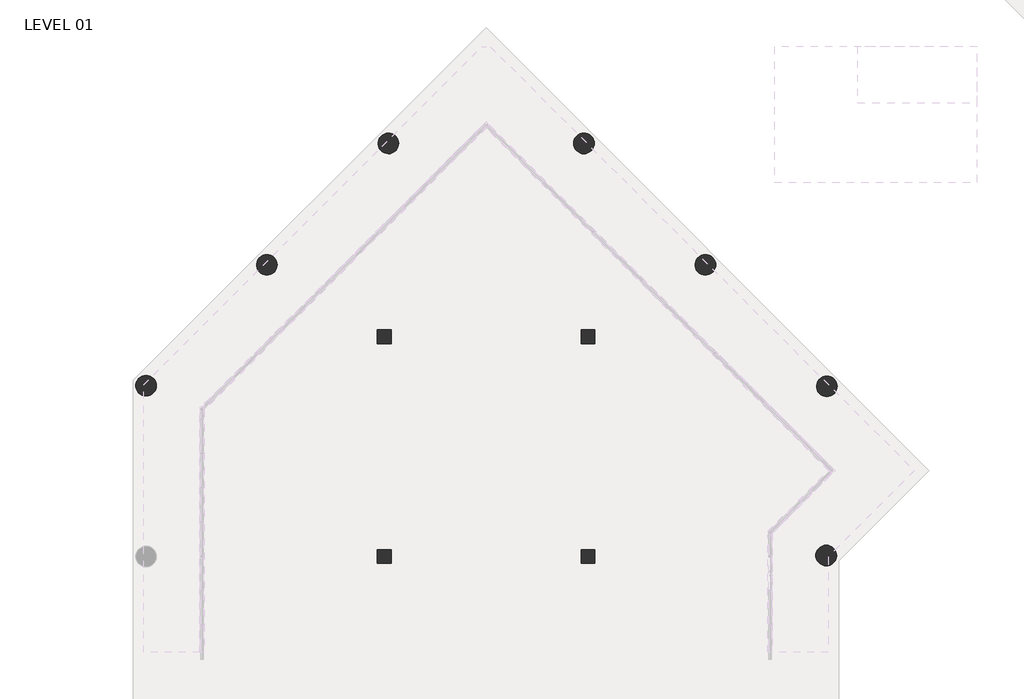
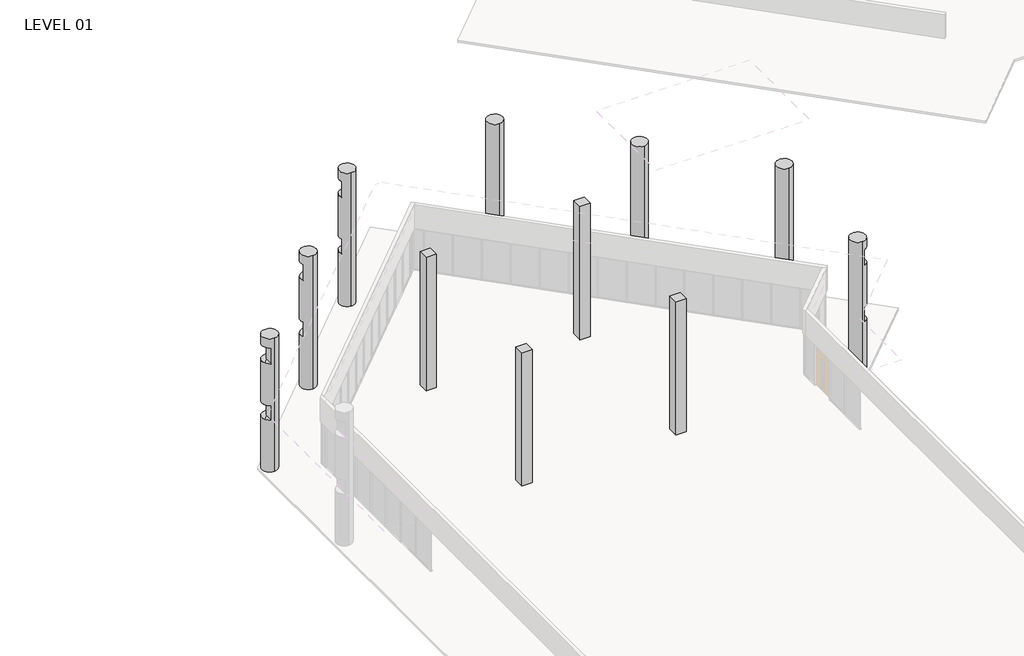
# One storey, part 18 of 24: 11 columns.
"""IFC4 building model written with IfcOpenShell, lengths in millimetres."""

from ifc_helpers import new_model, si_unit, frame, origin, place, context, project, spatial, circle_curve, transform, mapped, element, save
from ifc_brep_helpers import plane_surface, cylinder_surface, advanced_brep
from components import column_f8a5f9a6

model = new_model("IFC4")

# Units and contexts
model_context = context("Model", 3, world=origin())
ifc_project = project(units=[si_unit("LENGTHUNIT", "METRE", prefix="MILLI")], contexts=[model_context])

# Site, building, storey
site = spatial("IfcSite", under=ifc_project)
building = spatial("IfcBuilding", under=site)
storey = spatial("IfcBuildingStorey", under=building, Name="LEVEL 01", Elevation=0.0)

# Columns
placement = place(None, origin())
column_shape = column_f8a5f9a6(model_context)
element("IfcColumn", 1, ObjectType="Rectangular Column : 24\" x 24\"", at=placement, inside=storey, context=model_context, shape_type="MappedRepresentation", body=[
    mapped(column_shape, transform((-21715.9847164, 78701.5675885, 0.0), x_axis=(0.0, 1.0, 0.0), y_axis=(-1.0, 0.0, 0.0), z_axis=(0.0, 0.0, 1.0))),
])
element("IfcColumn", 2, ObjectType="Rectangular Column : 24\" x 24\"", at=placement, inside=storey, context=model_context, shape_type="MappedRepresentation", body=[
    mapped(column_shape, transform((-12679.9347164, 78701.5675885, 0.0), x_axis=(0.0, 1.0, 0.0), y_axis=(-1.0, 0.0, 0.0), z_axis=(0.0, 0.0, 1.0))),
])
element("IfcColumn", 3, ObjectType="Rectangular Column : 24\" x 24\"", at=placement, inside=storey, context=model_context, shape_type="MappedRepresentation", body=[
    mapped(column_shape, transform((-21715.9847164, 68947.9675885, 0.0), x_axis=(0.0, 1.0, 0.0), y_axis=(-1.0, 0.0, 0.0), z_axis=(0.0, 0.0, 1.0))),
])
element("IfcColumn", 4, ObjectType="Rectangular Column : 24\" x 24\"", at=placement, inside=storey, context=model_context, shape_type="MappedRepresentation", body=[
    mapped(column_shape, transform((-12679.9347164, 68947.9675885, 0.0), x_axis=(0.0, 1.0, 0.0), y_axis=(-1.0, 0.0, 0.0), z_axis=(0.0, 0.0, 1.0))),
])
element("IfcColumn", 5, ObjectType="Round Column : 36\" Diameter", at=placement, inside=storey, context=model_context, shape_type="AdvancedBrep", body=[
    advanced_brep(
    [(-2113.5347164, 68532.8516865, 0.0), (-2113.5347164, 69447.2516865, 0.0), (-1656.3347164, 68990.0516865, 0.0), (-2113.5347164, 68532.8516865, 8280.4), (-2113.5347164, 69447.2516865, 8280.4), (-1656.3347164, 68990.0516865, 3225.8), (-1961.1347164, 68558.9993926, 3225.8), (-1961.1347164, 68558.9993926, 4140.2), (-1656.3347164, 68990.0516865, 4140.2), (-1656.3347164, 68990.0516865, 6731.0), (-1961.1347164, 68558.9993926, 6731.0), (-1961.1347164, 68558.9993926, 7721.6), (-1656.3347164, 68990.0516865, 7721.6), (-1656.3347164, 68990.0516865, 8280.4), (-1700.9716429, 69187.088613, 7721.6), (-1700.9716429, 69187.088613, 6731.0), (-1700.9716429, 69187.088613, 4140.2), (-1700.9716429, 69187.088613, 3225.8), (-1961.1347164, 68926.9255396, 3225.8), (-1961.1347164, 68926.9255396, 4140.2), (-1961.1347164, 68926.9255396, 6731.0), (-1961.1347164, 68926.9255396, 7721.6)],
    [
        (0, 1, circle_curve(frame((-2113.5347164, 68990.0516865, 0.0), z_axis=(0.0, 0.0, -1.0), x_axis=(0.0, 1.0, 0.0)), 457.2)),
        (1, 2, circle_curve(frame((-2113.5347164, 68990.0516865, 0.0), z_axis=(0.0, 0.0, -1.0), x_axis=(0.0, 1.0, 0.0)), 457.2)),
        (2, 0, circle_curve(frame((-2113.5347164, 68990.0516865, 0.0), z_axis=(0.0, 0.0, -1.0), x_axis=(0.0, 1.0, 0.0)), 457.2)),
        (0, 3),
        (3, 4, circle_curve(frame((-2113.5347164, 68990.0516865, 8280.4), z_axis=(0.0, 0.0, -1.0), x_axis=(0.0, 1.0, 0.0)), 457.2)),
        (4, 1),
        (2, 5),
        (5, 6, circle_curve(frame((-2113.5347164, 68990.0516865, 3225.8), z_axis=(0.0, 0.0, -1.0), x_axis=(0.0, 1.0, 0.0)), 457.2)),
        (6, 7),
        (7, 8, circle_curve(frame((-2113.5347164, 68990.0516865, 4140.2), z_axis=(0.0, 0.0, 1.0), x_axis=(0.0, 1.0, 0.0)), 457.2)),
        (8, 9),
        (9, 10, circle_curve(frame((-2113.5347164, 68990.0516865, 6731.0), z_axis=(0.0, 0.0, -1.0), x_axis=(0.0, 1.0, 0.0)), 457.2)),
        (10, 11),
        (11, 12, circle_curve(frame((-2113.5347164, 68990.0516865, 7721.6), z_axis=(0.0, 0.0, 1.0), x_axis=(0.0, 1.0, 0.0)), 457.2)),
        (12, 13),
        (13, 3, circle_curve(frame((-2113.5347164, 68990.0516865, 8280.4), z_axis=(0.0, 0.0, -1.0), x_axis=(0.0, 1.0, 0.0)), 457.2)),
        (4, 13, circle_curve(frame((-2113.5347164, 68990.0516865, 8280.4), z_axis=(0.0, 0.0, -1.0), x_axis=(0.0, 1.0, 0.0)), 457.2)),
        (12, 14, circle_curve(frame((-2113.5347164, 68990.0516865, 7721.6), z_axis=(0.0, 0.0, 1.0), x_axis=(0.0, 1.0, 0.0)), 457.2)),
        (14, 15),
        (15, 9, circle_curve(frame((-2113.5347164, 68990.0516865, 6731.0), z_axis=(0.0, 0.0, -1.0), x_axis=(0.0, 1.0, 0.0)), 457.2)),
        (8, 16, circle_curve(frame((-2113.5347164, 68990.0516865, 4140.2), z_axis=(0.0, 0.0, 1.0), x_axis=(0.0, 1.0, 0.0)), 457.2)),
        (16, 17),
        (17, 5, circle_curve(frame((-2113.5347164, 68990.0516865, 3225.8), z_axis=(0.0, 0.0, -1.0), x_axis=(0.0, 1.0, 0.0)), 457.2)),
        (18, 19),
        (19, 7),
        (6, 18),
        (17, 18),
        (19, 16),
        (20, 21),
        (21, 11),
        (10, 20),
        (15, 20),
        (21, 14),
    ],
    [
        plane_surface(frame((-2113.5347164, 69447.2516865, 0.0), z_axis=(0.0, 0.0, -1.0), x_axis=(-1.0, 0.0, 0.0))),
        cylinder_surface(frame((-2113.5347164, 68990.0516865, 0.0), z_axis=(0.0, 0.0, 1.0), x_axis=(0.0, 1.0, 0.0)), 457.2),
        plane_surface(frame((-2113.5347164, 69447.2516865, 8280.4), z_axis=(0.0, 0.0, 1.0), x_axis=(1.0, 0.0, 0.0))),
        plane_surface(frame((-1961.1347164, 43225.4792122, 3225.8), z_axis=(1.0, 0.0, 0.0), x_axis=(0.0, -1.0, 0.0))),
        plane_surface(frame((-1656.3347164, 38383.7993926, 3225.8), z_axis=(0.0, 0.0, 1.0), x_axis=(-1.0, 0.0, 0.0))),
        plane_surface(frame((-1656.3347164, 68863.7993926, 4140.2), z_axis=(0.0, 0.0, -1.0), x_axis=(-1.0, 0.0, 0.0))),
        plane_surface(frame((-1871.8608633, 69016.1993926, 3225.8), z_axis=(0.7071067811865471, -0.707106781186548, 0.0), x_axis=(-0.707106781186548, -0.7071067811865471, 0.0))),
        plane_surface(frame((-1961.1347164, 43225.4792122, 6731.0), z_axis=(1.0, 0.0, 0.0), x_axis=(0.0, -1.0, 0.0))),
        plane_surface(frame((-1656.3347164, 38383.7993926, 6731.0), z_axis=(0.0, 0.0, 1.0), x_axis=(-1.0, 0.0, 0.0))),
        plane_surface(frame((-1656.3347164, 68863.7993926, 7721.6), z_axis=(0.0, 0.0, -1.0), x_axis=(-1.0, 0.0, 0.0))),
        plane_surface(frame((-1871.8608633, 69016.1993926, 6731.0), z_axis=(0.7071067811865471, -0.707106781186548, 0.0), x_axis=(-0.707106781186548, -0.7071067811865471, 0.0))),
    ],
    [
        (0, [[1, 2, 3]]),
        (1, [[-1, 4, 5, 6]]),
        (1, [[-3, 7, 8, 9, 10, 11, 12, 13, 14, 15, 16, -4]]),
        (1, [[-2, -6, 17, -15, 18, 19, 20, -11, 21, 22, 23, -7]]),
        (2, [[-5, -16, -17]]),
        (3, [[24, 25, -9, 26]]),
        (4, [[-8, -23, 27, -26]]),
        (5, [[-10, -25, 28, -21]]),
        (6, [[-24, -27, -22, -28]]),
        (7, [[29, 30, -13, 31]]),
        (8, [[-31, -12, -20, 32]]),
        (9, [[-30, 33, -18, -14]]),
        (10, [[-29, -32, -19, -33]]),
    ],
),
])
element("IfcColumn", 6, ObjectType="Round Column : 36\" Diameter", at=placement, inside=storey, context=model_context, shape_type="AdvancedBrep", body=[
    advanced_brep(
    [(-2083.7767654, 76038.9255396, 0.0), (-2083.7767654, 76953.3255396, 0.0), (-1626.5767654, 76496.1255396, 0.0), (-2083.7767654, 76038.9255396, 8280.4), (-2083.7767654, 76953.3255396, 8280.4), (-2083.7767654, 76953.3255396, 7721.6), (-2280.8136919, 76908.688613, 7721.6), (-2280.8136919, 76908.688613, 6731.0), (-2083.7767654, 76953.3255396, 6731.0), (-2083.7767654, 76953.3255396, 4140.2), (-2280.8136919, 76908.688613, 4140.2), (-2280.8136919, 76908.688613, 3225.8), (-2083.7767654, 76953.3255396, 3225.8), (-1626.5767654, 76496.1255396, 3225.8), (-1671.2136919, 76299.088613, 3225.8), (-1671.2136919, 76299.088613, 4140.2), (-1626.5767654, 76496.1255396, 4140.2), (-1626.5767654, 76496.1255396, 6731.0), (-1671.2136919, 76299.088613, 6731.0), (-1671.2136919, 76299.088613, 7721.6), (-1626.5767654, 76496.1255396, 7721.6), (-1626.5767654, 76496.1255396, 8280.4), (-1760.487545, 76819.4147599, 3225.8), (-1627.2850608, 76521.5649504, 3225.8), (-1760.487545, 76819.4147599, 6731.0), (-1760.487545, 76819.4147599, 7721.6), (-1760.487545, 76388.3624661, 3225.8), (-1760.487545, 76388.3624661, 4140.2), (-1627.2850608, 76521.5649504, 4140.2), (-1760.487545, 76819.4147599, 4140.2)],
    [
        (0, 1, circle_curve(frame((-2083.7767654, 76496.1255396, 0.0), z_axis=(0.0, 0.0, -1.0), x_axis=(0.0, 1.0, 0.0)), 457.2)),
        (1, 2, circle_curve(frame((-2083.7767654, 76496.1255396, 0.0), z_axis=(0.0, 0.0, -1.0), x_axis=(0.0, 1.0, 0.0)), 457.2)),
        (2, 0, circle_curve(frame((-2083.7767654, 76496.1255396, 0.0), z_axis=(0.0, 0.0, -1.0), x_axis=(0.0, 1.0, 0.0)), 457.2)),
        (0, 3),
        (3, 4, circle_curve(frame((-2083.7767654, 76496.1255396, 8280.4), z_axis=(0.0, 0.0, -1.0), x_axis=(0.0, 1.0, 0.0)), 457.2)),
        (4, 5),
        (5, 6, circle_curve(frame((-2083.7767654, 76496.1255396, 7721.6), z_axis=(0.0, 0.0, 1.0), x_axis=(0.0, 1.0, 0.0)), 457.2)),
        (6, 7),
        (7, 8, circle_curve(frame((-2083.7767654, 76496.1255396, 6731.0), z_axis=(0.0, 0.0, -1.0), x_axis=(0.0, 1.0, 0.0)), 457.2)),
        (8, 9),
        (9, 10, circle_curve(frame((-2083.7767654, 76496.1255396, 4140.2), z_axis=(0.0, 0.0, 1.0), x_axis=(0.0, 1.0, 0.0)), 457.2)),
        (10, 11),
        (11, 12, circle_curve(frame((-2083.7767654, 76496.1255396, 3225.8), z_axis=(0.0, 0.0, -1.0), x_axis=(0.0, 1.0, 0.0)), 457.2)),
        (12, 1),
        (2, 13),
        (13, 14, circle_curve(frame((-2083.7767654, 76496.1255396, 3225.8), z_axis=(0.0, 0.0, -1.0), x_axis=(0.0, 1.0, 0.0)), 457.2)),
        (14, 15),
        (15, 16, circle_curve(frame((-2083.7767654, 76496.1255396, 4140.2), z_axis=(0.0, 0.0, 1.0), x_axis=(0.0, 1.0, 0.0)), 457.2)),
        (16, 17),
        (17, 18, circle_curve(frame((-2083.7767654, 76496.1255396, 6731.0), z_axis=(0.0, 0.0, -1.0), x_axis=(0.0, 1.0, 0.0)), 457.2)),
        (18, 19),
        (19, 20, circle_curve(frame((-2083.7767654, 76496.1255396, 7721.6), z_axis=(0.0, 0.0, 1.0), x_axis=(0.0, 1.0, 0.0)), 457.2)),
        (20, 21),
        (21, 3, circle_curve(frame((-2083.7767654, 76496.1255396, 8280.4), z_axis=(0.0, 0.0, -1.0), x_axis=(0.0, 1.0, 0.0)), 457.2)),
        (12, 22, circle_curve(frame((-2083.7767654, 76496.1255396, 3225.8), z_axis=(0.0, 0.0, -1.0), x_axis=(0.0, 1.0, 0.0)), 457.2)),
        (22, 23, circle_curve(frame((-2083.7767654, 76496.1255396, 3225.8), z_axis=(0.0, 0.0, -1.0), x_axis=(0.0, 1.0, 0.0)), 457.2)),
        (23, 13, circle_curve(frame((-2083.7767654, 76496.1255396, 3225.8), z_axis=(0.0, 0.0, -1.0), x_axis=(0.0, 1.0, 0.0)), 457.2)),
        (21, 4, circle_curve(frame((-2083.7767654, 76496.1255396, 8280.4), z_axis=(0.0, 0.0, 1.0), x_axis=(0.0, 1.0, 0.0)), 457.2)),
        (18, 7),
        (6, 19),
        (17, 24, circle_curve(frame((-2083.7767654, 76496.1255396, 6731.0), z_axis=(0.0, 0.0, 1.0), x_axis=(0.0, 1.0, 0.0)), 457.2)),
        (24, 8, circle_curve(frame((-2083.7767654, 76496.1255396, 6731.0), z_axis=(0.0, 0.0, 1.0), x_axis=(0.0, 1.0, 0.0)), 457.2)),
        (5, 25, circle_curve(frame((-2083.7767654, 76496.1255396, 7721.6), z_axis=(0.0, 0.0, -1.0), x_axis=(0.0, 1.0, 0.0)), 457.2)),
        (25, 20, circle_curve(frame((-2083.7767654, 76496.1255396, 7721.6), z_axis=(0.0, 0.0, -1.0), x_axis=(0.0, 1.0, 0.0)), 457.2)),
        (23, 26),
        (26, 14),
        (15, 27),
        (27, 28),
        (28, 16, circle_curve(frame((-2083.7767654, 76496.1255396, 4140.2), z_axis=(0.0, 0.0, -1.0), x_axis=(0.0, 1.0, 0.0)), 457.2)),
        (26, 11),
        (10, 27),
        (27, 26),
        (9, 29, circle_curve(frame((-2083.7767654, 76496.1255396, 4140.2), z_axis=(0.0, 0.0, -1.0), x_axis=(0.0, 1.0, 0.0)), 457.2)),
        (29, 28, circle_curve(frame((-2083.7767654, 76496.1255396, 4140.2), z_axis=(0.0, 0.0, -1.0), x_axis=(0.0, 1.0, 0.0)), 457.2)),
    ],
    [
        plane_surface(frame((-2083.7767654, 76953.3255396, 0.0), z_axis=(0.0, 0.0, -1.0), x_axis=(-1.0, 0.0, 0.0))),
        cylinder_surface(frame((-2083.7767654, 76496.1255396, 0.0), z_axis=(0.0, 0.0, 1.0), x_axis=(0.0, 1.0, 0.0)), 457.2),
        plane_surface(frame((-2083.7767654, 76953.3255396, 8280.4), z_axis=(0.0, 0.0, 1.0), x_axis=(1.0, 0.0, 0.0))),
        plane_surface(frame((3969.9201386, 70657.9547825, 6731.0), z_axis=(0.707106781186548, 0.7071067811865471, 0.0), x_axis=(0.7071067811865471, -0.707106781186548, 0.0))),
        plane_surface(frame((2193.1965529, 72865.730662, 6731.0), z_axis=(0.0, 0.0, 1.0000000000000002), x_axis=(-0.7071067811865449, -0.7071067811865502, 0.0))),
        plane_surface(frame((-17090.1966429, 92149.1238578, 7721.6), z_axis=(0.0, 0.0, -1.0000000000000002), x_axis=(-0.7071067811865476, -0.7071067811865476, 0.0))),
        plane_surface(frame((2193.1965529, 72865.730662, 3225.8), z_axis=(0.0, 0.0, 1.0000000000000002), x_axis=(-0.7071067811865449, -0.7071067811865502, 0.0))),
        plane_surface(frame((-1544.9613981, 76603.888613, 4140.2), z_axis=(0.0, 0.0, -1.0), x_axis=(-0.7071067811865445, -0.7071067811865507, 0.0))),
        plane_surface(frame((2085.4334795, 72542.4414416, 3225.8), z_axis=(0.7071067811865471, 0.707106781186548, 0.0), x_axis=(0.707106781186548, -0.7071067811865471, 0.0))),
        plane_surface(frame((-1544.9613981, 76603.888613, 3225.8), z_axis=(0.0, 0.0, 1.0000000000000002), x_axis=(-0.7071067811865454, -0.7071067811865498, 0.0))),
        plane_surface(frame((-17090.1966429, 92149.1238578, 4140.2), z_axis=(0.0, 0.0, -1.0000000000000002), x_axis=(-0.7071067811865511, -0.707106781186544, 0.0))),
        plane_surface(frame((2085.4334795, 72542.4414416, 3225.8), z_axis=(0.7071067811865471, 0.7071067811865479, 0.0), x_axis=(0.7071067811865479, -0.7071067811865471, 0.0))),
    ],
    [
        (0, [[1, 2, 3]]),
        (1, [[-1, 4, 5, 6, 7, 8, 9, 10, 11, 12, 13, 14]]),
        (1, [[-3, 15, 16, 17, 18, 19, 20, 21, 22, 23, 24, -4]]),
        (1, [[-2, -14, 25, 26, 27, -15]]),
        (2, [[-5, -24, 28]]),
        (3, [[29, -8, 30, -21]]),
        (4, [[-9, -29, -20, 31, 32]]),
        (5, [[-7, 33, 34, -22, -30]]),
        (1, [[-28, -23, -34, -33, -6]]),
        (6, [[-16, -27, 35, 36]]),
        (7, [[-18, 37, 38, 39]]),
        (8, [[40, -12, 41, 42]]),
        (9, [[-40, -35, -26, -25, -13]]),
        (10, [[-41, -11, 43, 44, -38]]),
        (1, [[-31, -19, -39, -44, -43, -10, -32]]),
        (11, [[-36, -42, -37, -17]]),
    ],
),
])
element("IfcColumn", 7, ObjectType="Round Column : 36\" Diameter", at=placement, inside=storey, context=model_context, shape_type="AdvancedBrep", body=[
    advanced_brep(
    [(-7471.7517654, 81426.9005396, 0.0), (-7471.7517654, 82341.3005396, 0.0), (-7014.5517654, 81884.1005396, 0.0), (-7471.7517654, 81426.9005396, 8280.4), (-7471.7517654, 82341.3005396, 8280.4), (-7471.7517654, 82341.3005396, 7721.6), (-7668.7886919, 82296.663613, 7721.6), (-7668.7886919, 82296.663613, 6731.0), (-7471.7517654, 82341.3005396, 6731.0), (-7471.7517654, 82341.3005396, 4140.2), (-7668.7886919, 82296.663613, 4140.2), (-7668.7886919, 82296.663613, 3225.8), (-7471.7517654, 82341.3005396, 3225.8), (-7014.5517654, 81884.1005396, 3225.8), (-7059.1886919, 81687.063613, 3225.8), (-7059.1886919, 81687.063613, 4140.2), (-7014.5517654, 81884.1005396, 4140.2), (-7014.5517654, 81884.1005396, 6731.0), (-7059.1886919, 81687.063613, 6731.0), (-7059.1886919, 81687.063613, 7721.6), (-7014.5517654, 81884.1005396, 7721.6), (-7014.5517654, 81884.1005396, 8280.4), (-7148.462545, 82207.3897599, 3225.8), (-7148.462545, 82207.3897599, 6731.0), (-7148.462545, 82207.3897599, 7721.6), (-7148.462545, 82207.3897599, 4140.2)],
    [
        (0, 1, circle_curve(frame((-7471.7517654, 81884.1005396, 0.0), z_axis=(0.0, 0.0, -1.0), x_axis=(0.0, 1.0, 0.0)), 457.2)),
        (1, 2, circle_curve(frame((-7471.7517654, 81884.1005396, 0.0), z_axis=(0.0, 0.0, -1.0), x_axis=(0.0, 1.0, 0.0)), 457.2)),
        (2, 0, circle_curve(frame((-7471.7517654, 81884.1005396, 0.0), z_axis=(0.0, 0.0, -1.0), x_axis=(0.0, 1.0, 0.0)), 457.2)),
        (0, 3),
        (3, 4, circle_curve(frame((-7471.7517654, 81884.1005396, 8280.4), z_axis=(0.0, 0.0, -1.0), x_axis=(0.0, 1.0, 0.0)), 457.2)),
        (4, 5),
        (5, 6, circle_curve(frame((-7471.7517654, 81884.1005396, 7721.6), z_axis=(0.0, 0.0, 1.0), x_axis=(0.0, 1.0, 0.0)), 457.2)),
        (6, 7),
        (7, 8, circle_curve(frame((-7471.7517654, 81884.1005396, 6731.0), z_axis=(0.0, 0.0, -1.0), x_axis=(0.0, 1.0, 0.0)), 457.2)),
        (8, 9),
        (9, 10, circle_curve(frame((-7471.7517654, 81884.1005396, 4140.2), z_axis=(0.0, 0.0, 1.0), x_axis=(0.0, 1.0, 0.0)), 457.2)),
        (10, 11),
        (11, 12, circle_curve(frame((-7471.7517654, 81884.1005396, 3225.8), z_axis=(0.0, 0.0, -1.0), x_axis=(0.0, 1.0, 0.0)), 457.2)),
        (12, 1),
        (2, 13),
        (13, 14, circle_curve(frame((-7471.7517654, 81884.1005396, 3225.8), z_axis=(0.0, 0.0, -1.0), x_axis=(0.0, 1.0, 0.0)), 457.2)),
        (14, 15),
        (15, 16, circle_curve(frame((-7471.7517654, 81884.1005396, 4140.2), z_axis=(0.0, 0.0, 1.0), x_axis=(0.0, 1.0, 0.0)), 457.2)),
        (16, 17),
        (17, 18, circle_curve(frame((-7471.7517654, 81884.1005396, 6731.0), z_axis=(0.0, 0.0, -1.0), x_axis=(0.0, 1.0, 0.0)), 457.2)),
        (18, 19),
        (19, 20, circle_curve(frame((-7471.7517654, 81884.1005396, 7721.6), z_axis=(0.0, 0.0, 1.0), x_axis=(0.0, 1.0, 0.0)), 457.2)),
        (20, 21),
        (21, 3, circle_curve(frame((-7471.7517654, 81884.1005396, 8280.4), z_axis=(0.0, 0.0, -1.0), x_axis=(0.0, 1.0, 0.0)), 457.2)),
        (12, 22, circle_curve(frame((-7471.7517654, 81884.1005396, 3225.8), z_axis=(0.0, 0.0, -1.0), x_axis=(0.0, 1.0, 0.0)), 457.2)),
        (22, 13, circle_curve(frame((-7471.7517654, 81884.1005396, 3225.8), z_axis=(0.0, 0.0, -1.0), x_axis=(0.0, 1.0, 0.0)), 457.2)),
        (21, 4, circle_curve(frame((-7471.7517654, 81884.1005396, 8280.4), z_axis=(0.0, 0.0, 1.0), x_axis=(0.0, 1.0, 0.0)), 457.2)),
        (18, 7),
        (6, 19),
        (17, 23, circle_curve(frame((-7471.7517654, 81884.1005396, 6731.0), z_axis=(0.0, 0.0, 1.0), x_axis=(0.0, 1.0, 0.0)), 457.2)),
        (23, 8, circle_curve(frame((-7471.7517654, 81884.1005396, 6731.0), z_axis=(0.0, 0.0, 1.0), x_axis=(0.0, 1.0, 0.0)), 457.2)),
        (5, 24, circle_curve(frame((-7471.7517654, 81884.1005396, 7721.6), z_axis=(0.0, 0.0, -1.0), x_axis=(0.0, 1.0, 0.0)), 457.2)),
        (24, 20, circle_curve(frame((-7471.7517654, 81884.1005396, 7721.6), z_axis=(0.0, 0.0, -1.0), x_axis=(0.0, 1.0, 0.0)), 457.2)),
        (14, 11),
        (10, 15),
        (9, 25, circle_curve(frame((-7471.7517654, 81884.1005396, 4140.2), z_axis=(0.0, 0.0, -1.0), x_axis=(0.0, 1.0, 0.0)), 457.2)),
        (25, 16, circle_curve(frame((-7471.7517654, 81884.1005396, 4140.2), z_axis=(0.0, 0.0, -1.0), x_axis=(0.0, 1.0, 0.0)), 457.2)),
    ],
    [
        plane_surface(frame((-7471.7517654, 82341.3005396, 0.0), z_axis=(0.0, 0.0, -1.0), x_axis=(-1.0, 0.0, 0.0))),
        cylinder_surface(frame((-7471.7517654, 81884.1005396, 0.0), z_axis=(0.0, 0.0, 1.0), x_axis=(0.0, 1.0, 0.0)), 457.2),
        plane_surface(frame((-7471.7517654, 82341.3005396, 8280.4), z_axis=(0.0, 0.0, 1.0), x_axis=(1.0, 0.0, 0.0))),
        plane_surface(frame((3969.9201386, 70657.9547825, 6731.0), z_axis=(0.707106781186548, 0.7071067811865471, 0.0), x_axis=(0.7071067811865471, -0.707106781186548, 0.0))),
        plane_surface(frame((2193.1965529, 72865.730662, 6731.0), z_axis=(0.0, 0.0, 1.0000000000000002), x_axis=(-0.7071067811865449, -0.7071067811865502, 0.0))),
        plane_surface(frame((-17090.1966429, 92149.1238578, 7721.6), z_axis=(0.0, 0.0, -1.0000000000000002), x_axis=(-0.7071067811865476, -0.7071067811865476, 0.0))),
        plane_surface(frame((2085.4334795, 72542.4414416, 3225.8), z_axis=(0.7071067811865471, 0.707106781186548, 0.0), x_axis=(0.707106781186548, -0.7071067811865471, 0.0))),
        plane_surface(frame((-1544.9613981, 76603.888613, 3225.8), z_axis=(0.0, 0.0, 1.0000000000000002), x_axis=(-0.7071067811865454, -0.7071067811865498, 0.0))),
        plane_surface(frame((-17090.1966429, 92149.1238578, 4140.2), z_axis=(0.0, 0.0, -1.0000000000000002), x_axis=(-0.7071067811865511, -0.707106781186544, 0.0))),
    ],
    [
        (0, [[1, 2, 3]]),
        (1, [[-1, 4, 5, 6, 7, 8, 9, 10, 11, 12, 13, 14]]),
        (1, [[-3, 15, 16, 17, 18, 19, 20, 21, 22, 23, 24, -4]]),
        (1, [[-2, -14, 25, 26, -15]]),
        (2, [[-5, -24, 27]]),
        (3, [[28, -8, 29, -21]]),
        (4, [[-9, -28, -20, 30, 31]]),
        (5, [[-7, 32, 33, -22, -29]]),
        (1, [[-27, -23, -33, -32, -6]]),
        (6, [[34, -12, 35, -17]]),
        (7, [[-34, -16, -26, -25, -13]]),
        (8, [[-35, -11, 36, 37, -18]]),
        (1, [[-30, -19, -37, -36, -10, -31]]),
    ],
),
])
element("IfcColumn", 8, ObjectType="Round Column : 36\" Diameter", at=placement, inside=storey, context=model_context, shape_type="AdvancedBrep", body=[
    advanced_brep(
    [(-12859.7267654, 86814.8755396, 0.0), (-12859.7267654, 87729.2755396, 0.0), (-12402.5267654, 87272.0755396, 0.0), (-12859.7267654, 86814.8755396, 8280.4), (-12859.7267654, 87729.2755396, 8280.4), (-12859.7267654, 87729.2755396, 7721.6), (-13056.7636919, 87684.638613, 7721.6), (-13056.7636919, 87684.638613, 6731.0), (-12859.7267654, 87729.2755396, 6731.0), (-12859.7267654, 87729.2755396, 4140.2), (-13056.7636919, 87684.638613, 4140.2), (-13056.7636919, 87684.638613, 3225.8), (-12859.7267654, 87729.2755396, 3225.8), (-12402.5267654, 87272.0755396, 3225.8), (-12447.1636919, 87075.038613, 3225.8), (-12447.1636919, 87075.038613, 4140.2), (-12402.5267654, 87272.0755396, 4140.2), (-12402.5267654, 87272.0755396, 6731.0), (-12447.1636919, 87075.038613, 6731.0), (-12447.1636919, 87075.038613, 7721.6), (-12402.5267654, 87272.0755396, 7721.6), (-12402.5267654, 87272.0755396, 8280.4), (-12536.437545, 87595.3647599, 3225.8), (-12536.437545, 87595.3647599, 6731.0), (-12536.437545, 87595.3647599, 7721.6), (-12536.437545, 87595.3647599, 4140.2)],
    [
        (0, 1, circle_curve(frame((-12859.7267654, 87272.0755396, 0.0), z_axis=(0.0, 0.0, -1.0), x_axis=(0.0, 1.0, 0.0)), 457.2)),
        (1, 2, circle_curve(frame((-12859.7267654, 87272.0755396, 0.0), z_axis=(0.0, 0.0, -1.0), x_axis=(0.0, 1.0, 0.0)), 457.2)),
        (2, 0, circle_curve(frame((-12859.7267654, 87272.0755396, 0.0), z_axis=(0.0, 0.0, -1.0), x_axis=(0.0, 1.0, 0.0)), 457.2)),
        (0, 3),
        (3, 4, circle_curve(frame((-12859.7267654, 87272.0755396, 8280.4), z_axis=(0.0, 0.0, -1.0), x_axis=(0.0, 1.0, 0.0)), 457.2)),
        (4, 5),
        (5, 6, circle_curve(frame((-12859.7267654, 87272.0755396, 7721.6), z_axis=(0.0, 0.0, 1.0), x_axis=(0.0, 1.0, 0.0)), 457.2)),
        (6, 7),
        (7, 8, circle_curve(frame((-12859.7267654, 87272.0755396, 6731.0), z_axis=(0.0, 0.0, -1.0), x_axis=(0.0, 1.0, 0.0)), 457.2)),
        (8, 9),
        (9, 10, circle_curve(frame((-12859.7267654, 87272.0755396, 4140.2), z_axis=(0.0, 0.0, 1.0), x_axis=(0.0, 1.0, 0.0)), 457.2)),
        (10, 11),
        (11, 12, circle_curve(frame((-12859.7267654, 87272.0755396, 3225.8), z_axis=(0.0, 0.0, -1.0), x_axis=(0.0, 1.0, 0.0)), 457.2)),
        (12, 1),
        (2, 13),
        (13, 14, circle_curve(frame((-12859.7267654, 87272.0755396, 3225.8), z_axis=(0.0, 0.0, -1.0), x_axis=(0.0, 1.0, 0.0)), 457.2)),
        (14, 15),
        (15, 16, circle_curve(frame((-12859.7267654, 87272.0755396, 4140.2), z_axis=(0.0, 0.0, 1.0), x_axis=(0.0, 1.0, 0.0)), 457.2)),
        (16, 17),
        (17, 18, circle_curve(frame((-12859.7267654, 87272.0755396, 6731.0), z_axis=(0.0, 0.0, -1.0), x_axis=(0.0, 1.0, 0.0)), 457.2)),
        (18, 19),
        (19, 20, circle_curve(frame((-12859.7267654, 87272.0755396, 7721.6), z_axis=(0.0, 0.0, 1.0), x_axis=(0.0, 1.0, 0.0)), 457.2)),
        (20, 21),
        (21, 3, circle_curve(frame((-12859.7267654, 87272.0755396, 8280.4), z_axis=(0.0, 0.0, -1.0), x_axis=(0.0, 1.0, 0.0)), 457.2)),
        (12, 22, circle_curve(frame((-12859.7267654, 87272.0755396, 3225.8), z_axis=(0.0, 0.0, -1.0), x_axis=(0.0, 1.0, 0.0)), 457.2)),
        (22, 13, circle_curve(frame((-12859.7267654, 87272.0755396, 3225.8), z_axis=(0.0, 0.0, -1.0), x_axis=(0.0, 1.0, 0.0)), 457.2)),
        (21, 4, circle_curve(frame((-12859.7267654, 87272.0755396, 8280.4), z_axis=(0.0, 0.0, 1.0), x_axis=(0.0, 1.0, 0.0)), 457.2)),
        (18, 7),
        (6, 19),
        (17, 23, circle_curve(frame((-12859.7267654, 87272.0755396, 6731.0), z_axis=(0.0, 0.0, 1.0), x_axis=(0.0, 1.0, 0.0)), 457.2)),
        (23, 8, circle_curve(frame((-12859.7267654, 87272.0755396, 6731.0), z_axis=(0.0, 0.0, 1.0), x_axis=(0.0, 1.0, 0.0)), 457.2)),
        (5, 24, circle_curve(frame((-12859.7267654, 87272.0755396, 7721.6), z_axis=(0.0, 0.0, -1.0), x_axis=(0.0, 1.0, 0.0)), 457.2)),
        (24, 20, circle_curve(frame((-12859.7267654, 87272.0755396, 7721.6), z_axis=(0.0, 0.0, -1.0), x_axis=(0.0, 1.0, 0.0)), 457.2)),
        (14, 11),
        (10, 15),
        (9, 25, circle_curve(frame((-12859.7267654, 87272.0755396, 4140.2), z_axis=(0.0, 0.0, -1.0), x_axis=(0.0, 1.0, 0.0)), 457.2)),
        (25, 16, circle_curve(frame((-12859.7267654, 87272.0755396, 4140.2), z_axis=(0.0, 0.0, -1.0), x_axis=(0.0, 1.0, 0.0)), 457.2)),
    ],
    [
        plane_surface(frame((-12859.7267654, 87729.2755396, 0.0), z_axis=(0.0, 0.0, -1.0), x_axis=(-1.0, 0.0, 0.0))),
        cylinder_surface(frame((-12859.7267654, 87272.0755396, 0.0), z_axis=(0.0, 0.0, 1.0), x_axis=(0.0, 1.0, 0.0)), 457.2),
        plane_surface(frame((-12859.7267654, 87729.2755396, 8280.4), z_axis=(0.0, 0.0, 1.0), x_axis=(1.0, 0.0, 0.0))),
        plane_surface(frame((3969.9201386, 70657.9547825, 6731.0), z_axis=(0.707106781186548, 0.7071067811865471, 0.0), x_axis=(0.7071067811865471, -0.707106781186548, 0.0))),
        plane_surface(frame((2193.1965529, 72865.730662, 6731.0), z_axis=(0.0, 0.0, 1.0000000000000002), x_axis=(-0.7071067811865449, -0.7071067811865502, 0.0))),
        plane_surface(frame((-17090.1966429, 92149.1238578, 7721.6), z_axis=(0.0, 0.0, -1.0000000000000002), x_axis=(-0.7071067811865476, -0.7071067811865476, 0.0))),
        plane_surface(frame((2085.4334795, 72542.4414416, 3225.8), z_axis=(0.7071067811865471, 0.707106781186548, 0.0), x_axis=(0.707106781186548, -0.7071067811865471, 0.0))),
        plane_surface(frame((-1544.9613981, 76603.888613, 3225.8), z_axis=(0.0, 0.0, 1.0000000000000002), x_axis=(-0.7071067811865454, -0.7071067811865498, 0.0))),
        plane_surface(frame((-17090.1966429, 92149.1238578, 4140.2), z_axis=(0.0, 0.0, -1.0000000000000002), x_axis=(-0.7071067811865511, -0.707106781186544, 0.0))),
    ],
    [
        (0, [[1, 2, 3]]),
        (1, [[-1, 4, 5, 6, 7, 8, 9, 10, 11, 12, 13, 14]]),
        (1, [[-3, 15, 16, 17, 18, 19, 20, 21, 22, 23, 24, -4]]),
        (1, [[-2, -14, 25, 26, -15]]),
        (2, [[-5, -24, 27]]),
        (3, [[28, -8, 29, -21]]),
        (4, [[-9, -28, -20, 30, 31]]),
        (5, [[-7, 32, 33, -22, -29]]),
        (1, [[-27, -23, -33, -32, -6]]),
        (6, [[34, -12, 35, -17]]),
        (7, [[-34, -16, -26, -25, -13]]),
        (8, [[-35, -11, 36, 37, -18]]),
        (1, [[-30, -19, -37, -36, -10, -31]]),
    ],
),
])
element("IfcColumn", 9, ObjectType="Round Column : 36\" Diameter", at=placement, inside=storey, context=model_context, shape_type="AdvancedBrep", body=[
    advanced_brep(
    [(-21536.1926674, 86814.8755396, 0.0), (-21536.1926674, 87729.2755396, 0.0), (-21078.9926674, 87272.0755396, 0.0), (-21536.1926674, 86814.8755396, 8280.4), (-21536.1926674, 87729.2755396, 8280.4), (-21536.1926674, 87729.2755396, 7721.6), (-21859.4818878, 87595.3647599, 7721.6), (-21948.7557409, 87075.038613, 7721.6), (-21948.7557409, 87075.038613, 6731.0), (-21859.4818878, 87595.3647599, 6731.0), (-21536.1926674, 87729.2755396, 6731.0), (-21536.1926674, 87729.2755396, 4140.2), (-21859.4818878, 87595.3647599, 4140.2), (-21948.7557409, 87075.038613, 4140.2), (-21948.7557409, 87075.038613, 3225.8), (-21859.4818878, 87595.3647599, 3225.8), (-21536.1926674, 87729.2755396, 3225.8), (-21078.9926674, 87272.0755396, 8280.4), (-21339.1557409, 87684.638613, 3225.8), (-21339.1557409, 87684.638613, 4140.2), (-21339.1557409, 87684.638613, 6731.0), (-21339.1557409, 87684.638613, 7721.6)],
    [
        (0, 1, circle_curve(frame((-21536.1926674, 87272.0755396, 0.0), z_axis=(0.0, 0.0, -1.0), x_axis=(0.0, 1.0, 0.0)), 457.2)),
        (1, 2, circle_curve(frame((-21536.1926674, 87272.0755396, 0.0), z_axis=(0.0, 0.0, -1.0), x_axis=(0.0, 1.0, 0.0)), 457.2)),
        (2, 0, circle_curve(frame((-21536.1926674, 87272.0755396, 0.0), z_axis=(0.0, 0.0, -1.0), x_axis=(0.0, 1.0, 0.0)), 457.2)),
        (0, 3),
        (3, 4, circle_curve(frame((-21536.1926674, 87272.0755396, 8280.4), z_axis=(0.0, 0.0, -1.0), x_axis=(0.0, 1.0, 0.0)), 457.2)),
        (4, 5),
        (5, 6, circle_curve(frame((-21536.1926674, 87272.0755396, 7721.6), z_axis=(0.0, 0.0, 1.0), x_axis=(0.0, 1.0, 0.0)), 457.2)),
        (6, 7, circle_curve(frame((-21536.1926674, 87272.0755396, 7721.6), z_axis=(0.0, 0.0, 1.0), x_axis=(0.0, 1.0, 0.0)), 457.2)),
        (7, 8),
        (8, 9, circle_curve(frame((-21536.1926674, 87272.0755396, 6731.0), z_axis=(0.0, 0.0, -1.0), x_axis=(0.0, 1.0, 0.0)), 457.2)),
        (9, 10, circle_curve(frame((-21536.1926674, 87272.0755396, 6731.0), z_axis=(0.0, 0.0, -1.0), x_axis=(0.0, 1.0, 0.0)), 457.2)),
        (10, 11),
        (11, 12, circle_curve(frame((-21536.1926674, 87272.0755396, 4140.2), z_axis=(0.0, 0.0, 1.0), x_axis=(0.0, 1.0, 0.0)), 457.2)),
        (12, 13, circle_curve(frame((-21536.1926674, 87272.0755396, 4140.2), z_axis=(0.0, 0.0, 1.0), x_axis=(0.0, 1.0, 0.0)), 457.2)),
        (13, 14),
        (14, 15, circle_curve(frame((-21536.1926674, 87272.0755396, 3225.8), z_axis=(0.0, 0.0, -1.0), x_axis=(0.0, 1.0, 0.0)), 457.2)),
        (15, 16, circle_curve(frame((-21536.1926674, 87272.0755396, 3225.8), z_axis=(0.0, 0.0, -1.0), x_axis=(0.0, 1.0, 0.0)), 457.2)),
        (16, 1),
        (2, 17),
        (17, 3, circle_curve(frame((-21536.1926674, 87272.0755396, 8280.4), z_axis=(0.0, 0.0, -1.0), x_axis=(0.0, 1.0, 0.0)), 457.2)),
        (16, 18, circle_curve(frame((-21536.1926674, 87272.0755396, 3225.8), z_axis=(0.0, 0.0, -1.0), x_axis=(0.0, 1.0, 0.0)), 457.2)),
        (18, 19),
        (19, 11, circle_curve(frame((-21536.1926674, 87272.0755396, 4140.2), z_axis=(0.0, 0.0, 1.0), x_axis=(0.0, 1.0, 0.0)), 457.2)),
        (10, 20, circle_curve(frame((-21536.1926674, 87272.0755396, 6731.0), z_axis=(0.0, 0.0, -1.0), x_axis=(0.0, 1.0, 0.0)), 457.2)),
        (20, 21),
        (21, 5, circle_curve(frame((-21536.1926674, 87272.0755396, 7721.6), z_axis=(0.0, 0.0, 1.0), x_axis=(0.0, 1.0, 0.0)), 457.2)),
        (4, 17, circle_curve(frame((-21536.1926674, 87272.0755396, 8280.4), z_axis=(0.0, 0.0, -1.0), x_axis=(0.0, 1.0, 0.0)), 457.2)),
        (13, 19),
        (18, 14),
        (20, 8),
        (7, 21),
    ],
    [
        plane_surface(frame((-21536.1926674, 87729.2755396, 0.0), z_axis=(0.0, 0.0, -1.0), x_axis=(-1.0, 0.0, 0.0))),
        cylinder_surface(frame((-21536.1926674, 87272.0755396, 0.0), z_axis=(0.0, 0.0, 1.0), x_axis=(0.0, 1.0, 0.0)), 457.2),
        plane_surface(frame((-21536.1926674, 87729.2755396, 8280.4), z_axis=(0.0, 0.0, 1.0), x_axis=(1.0, 0.0, 0.0))),
        plane_surface(frame((-16910.5915205, 92113.2028334, 3225.8), z_axis=(-0.7071067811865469, 0.7071067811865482, 0.0), x_axis=(0.7071067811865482, 0.7071067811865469, 0.0))),
        plane_surface(frame((-17305.7227899, 92149.1238578, 3225.8), z_axis=(0.0, 0.0, 1.0000000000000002), x_axis=(0.707106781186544, -0.7071067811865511, 0.0))),
        plane_surface(frame((-32694.9477899, 76759.8988578, 4140.2), z_axis=(0.0, 0.0, -1.0), x_axis=(0.7071067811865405, -0.7071067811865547, 0.0))),
        plane_surface(frame((-16910.5915205, 92113.2028334, 6731.0), z_axis=(-0.707106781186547, 0.7071067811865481, 0.0), x_axis=(0.7071067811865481, 0.707106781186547, 0.0))),
        plane_surface(frame((-17305.7227899, 92149.1238578, 6731.0), z_axis=(0.0, 0.0, 1.0000000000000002), x_axis=(0.707106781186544, -0.7071067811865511, 0.0))),
        plane_surface(frame((-32694.9477899, 76759.8988578, 7721.6), z_axis=(0.0, 0.0, -1.0000000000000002), x_axis=(0.7071067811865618, -0.7071067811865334, 0.0))),
    ],
    [
        (0, [[1, 2, 3]]),
        (1, [[-1, 4, 5, 6, 7, 8, 9, 10, 11, 12, 13, 14, 15, 16, 17, 18]]),
        (1, [[-3, 19, 20, -4]]),
        (1, [[-2, -18, 21, 22, 23, -12, 24, 25, 26, -6, 27, -19]]),
        (2, [[-5, -20, -27]]),
        (3, [[-15, 28, -22, 29]]),
        (4, [[-17, -16, -29, -21]]),
        (5, [[-13, -23, -28, -14]]),
        (6, [[30, -9, 31, -25]]),
        (7, [[-30, -24, -11, -10]]),
        (8, [[-31, -8, -7, -26]]),
    ],
),
])
element("IfcColumn", 10, ObjectType="Round Column : 36\" Diameter", at=placement, inside=storey, context=model_context, shape_type="AdvancedBrep", body=[
    advanced_brep(
    [(-26924.1676674, 81426.9005396, 0.0), (-26924.1676674, 82341.3005396, 0.0), (-26466.9676674, 81884.1005396, 0.0), (-26924.1676674, 81426.9005396, 8280.4), (-26924.1676674, 82341.3005396, 8280.4), (-26924.1676674, 82341.3005396, 7721.6), (-27247.4568878, 82207.3897599, 7721.6), (-27336.7307409, 81687.063613, 7721.6), (-27336.7307409, 81687.063613, 6731.0), (-27247.4568878, 82207.3897599, 6731.0), (-26924.1676674, 82341.3005396, 6731.0), (-26924.1676674, 82341.3005396, 4140.2), (-27247.4568878, 82207.3897599, 4140.2), (-27336.7307409, 81687.063613, 4140.2), (-27336.7307409, 81687.063613, 3225.8), (-27247.4568878, 82207.3897599, 3225.8), (-26924.1676674, 82341.3005396, 3225.8), (-26466.9676674, 81884.1005396, 8280.4), (-26727.1307409, 82296.663613, 3225.8), (-26727.1307409, 82296.663613, 4140.2), (-26727.1307409, 82296.663613, 6731.0), (-26727.1307409, 82296.663613, 7721.6)],
    [
        (0, 1, circle_curve(frame((-26924.1676674, 81884.1005396, 0.0), z_axis=(0.0, 0.0, -1.0), x_axis=(0.0, 1.0, 0.0)), 457.2)),
        (1, 2, circle_curve(frame((-26924.1676674, 81884.1005396, 0.0), z_axis=(0.0, 0.0, -1.0), x_axis=(0.0, 1.0, 0.0)), 457.2)),
        (2, 0, circle_curve(frame((-26924.1676674, 81884.1005396, 0.0), z_axis=(0.0, 0.0, -1.0), x_axis=(0.0, 1.0, 0.0)), 457.2)),
        (0, 3),
        (3, 4, circle_curve(frame((-26924.1676674, 81884.1005396, 8280.4), z_axis=(0.0, 0.0, -1.0), x_axis=(0.0, 1.0, 0.0)), 457.2)),
        (4, 5),
        (5, 6, circle_curve(frame((-26924.1676674, 81884.1005396, 7721.6), z_axis=(0.0, 0.0, 1.0), x_axis=(0.0, 1.0, 0.0)), 457.2)),
        (6, 7, circle_curve(frame((-26924.1676674, 81884.1005396, 7721.6), z_axis=(0.0, 0.0, 1.0), x_axis=(0.0, 1.0, 0.0)), 457.2)),
        (7, 8),
        (8, 9, circle_curve(frame((-26924.1676674, 81884.1005396, 6731.0), z_axis=(0.0, 0.0, -1.0), x_axis=(0.0, 1.0, 0.0)), 457.2)),
        (9, 10, circle_curve(frame((-26924.1676674, 81884.1005396, 6731.0), z_axis=(0.0, 0.0, -1.0), x_axis=(0.0, 1.0, 0.0)), 457.2)),
        (10, 11),
        (11, 12, circle_curve(frame((-26924.1676674, 81884.1005396, 4140.2), z_axis=(0.0, 0.0, 1.0), x_axis=(0.0, 1.0, 0.0)), 457.2)),
        (12, 13, circle_curve(frame((-26924.1676674, 81884.1005396, 4140.2), z_axis=(0.0, 0.0, 1.0), x_axis=(0.0, 1.0, 0.0)), 457.2)),
        (13, 14),
        (14, 15, circle_curve(frame((-26924.1676674, 81884.1005396, 3225.8), z_axis=(0.0, 0.0, -1.0), x_axis=(0.0, 1.0, 0.0)), 457.2)),
        (15, 16, circle_curve(frame((-26924.1676674, 81884.1005396, 3225.8), z_axis=(0.0, 0.0, -1.0), x_axis=(0.0, 1.0, 0.0)), 457.2)),
        (16, 1),
        (2, 17),
        (17, 3, circle_curve(frame((-26924.1676674, 81884.1005396, 8280.4), z_axis=(0.0, 0.0, -1.0), x_axis=(0.0, 1.0, 0.0)), 457.2)),
        (16, 18, circle_curve(frame((-26924.1676674, 81884.1005396, 3225.8), z_axis=(0.0, 0.0, -1.0), x_axis=(0.0, 1.0, 0.0)), 457.2)),
        (18, 19),
        (19, 11, circle_curve(frame((-26924.1676674, 81884.1005396, 4140.2), z_axis=(0.0, 0.0, 1.0), x_axis=(0.0, 1.0, 0.0)), 457.2)),
        (10, 20, circle_curve(frame((-26924.1676674, 81884.1005396, 6731.0), z_axis=(0.0, 0.0, -1.0), x_axis=(0.0, 1.0, 0.0)), 457.2)),
        (20, 21),
        (21, 5, circle_curve(frame((-26924.1676674, 81884.1005396, 7721.6), z_axis=(0.0, 0.0, 1.0), x_axis=(0.0, 1.0, 0.0)), 457.2)),
        (4, 17, circle_curve(frame((-26924.1676674, 81884.1005396, 8280.4), z_axis=(0.0, 0.0, -1.0), x_axis=(0.0, 1.0, 0.0)), 457.2)),
        (13, 19),
        (18, 14),
        (20, 8),
        (7, 21),
    ],
    [
        plane_surface(frame((-26924.1676674, 82341.3005396, 0.0), z_axis=(0.0, 0.0, -1.0), x_axis=(-1.0, 0.0, 0.0))),
        cylinder_surface(frame((-26924.1676674, 81884.1005396, 0.0), z_axis=(0.0, 0.0, 1.0), x_axis=(0.0, 1.0, 0.0)), 457.2),
        plane_surface(frame((-26924.1676674, 82341.3005396, 8280.4), z_axis=(0.0, 0.0, 1.0), x_axis=(1.0, 0.0, 0.0))),
        plane_surface(frame((-16910.5915205, 92113.2028334, 3225.8), z_axis=(-0.7071067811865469, 0.7071067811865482, 0.0), x_axis=(0.7071067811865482, 0.7071067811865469, 0.0))),
        plane_surface(frame((-17305.7227899, 92149.1238578, 3225.8), z_axis=(0.0, 0.0, 1.0000000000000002), x_axis=(0.707106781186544, -0.7071067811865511, 0.0))),
        plane_surface(frame((-32694.9477899, 76759.8988578, 4140.2), z_axis=(0.0, 0.0, -1.0), x_axis=(0.7071067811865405, -0.7071067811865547, 0.0))),
        plane_surface(frame((-16910.5915205, 92113.2028334, 6731.0), z_axis=(-0.707106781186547, 0.7071067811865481, 0.0), x_axis=(0.7071067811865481, 0.707106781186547, 0.0))),
        plane_surface(frame((-17305.7227899, 92149.1238578, 6731.0), z_axis=(0.0, 0.0, 1.0000000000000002), x_axis=(0.707106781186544, -0.7071067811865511, 0.0))),
        plane_surface(frame((-32694.9477899, 76759.8988578, 7721.6), z_axis=(0.0, 0.0, -1.0000000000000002), x_axis=(0.7071067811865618, -0.7071067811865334, 0.0))),
    ],
    [
        (0, [[1, 2, 3]]),
        (1, [[-1, 4, 5, 6, 7, 8, 9, 10, 11, 12, 13, 14, 15, 16, 17, 18]]),
        (1, [[-3, 19, 20, -4]]),
        (1, [[-2, -18, 21, 22, 23, -12, 24, 25, 26, -6, 27, -19]]),
        (2, [[-5, -20, -27]]),
        (3, [[-15, 28, -22, 29]]),
        (4, [[-17, -16, -29, -21]]),
        (5, [[-13, -23, -28, -14]]),
        (6, [[30, -9, 31, -25]]),
        (7, [[-30, -24, -11, -10]]),
        (8, [[-31, -8, -7, -26]]),
    ],
),
])
element("IfcColumn", 11, ObjectType="Round Column : 36\" Diameter", at=placement, inside=storey, context=model_context, shape_type="AdvancedBrep", body=[
    advanced_brep(
    [(-32282.3847164, 76068.6834906, 0.0), (-32282.3847164, 76983.0834906, 0.0), (-31825.1847164, 76525.8834906, 0.0), (-32282.3847164, 76068.6834906, 8280.4), (-32282.3847164, 76983.0834906, 8280.4), (-32282.3847164, 76983.0834906, 7721.6), (-32605.6739368, 76849.1727109, 7721.6), (-32739.5847164, 76525.8834906, 7721.6), (-32694.9477899, 76328.846564, 7721.6), (-32434.7847164, 76094.8311968, 7721.6), (-32434.7847164, 76094.8311968, 6731.0), (-32694.9477899, 76328.846564, 6731.0), (-32739.5847164, 76525.8834906, 6731.0), (-32605.6739368, 76849.1727109, 6731.0), (-32282.3847164, 76983.0834906, 6731.0), (-32282.3847164, 76983.0834906, 4140.2), (-32605.6739368, 76849.1727109, 4140.2), (-32739.5847164, 76525.8834906, 4140.2), (-32694.9477899, 76328.846564, 4140.2), (-32434.7847164, 76094.8311968, 4140.2), (-32434.7847164, 76094.8311968, 3225.8), (-32694.9477899, 76328.846564, 3225.8), (-32739.5847164, 76525.8834906, 3225.8), (-32605.6739368, 76849.1727109, 3225.8), (-32282.3847164, 76983.0834906, 3225.8), (-31825.1847164, 76525.8834906, 8280.4), (-32085.3477899, 76938.446564, 3225.8), (-32085.3477899, 76938.446564, 4140.2), (-32085.3477899, 76938.446564, 6731.0), (-32085.3477899, 76938.446564, 7721.6), (-32434.7847164, 76589.0096375, 3225.8), (-32434.7847164, 76589.0096375, 4140.2), (-32434.7847164, 76589.0096375, 6731.0), (-32434.7847164, 76589.0096375, 7721.6)],
    [
        (0, 1, circle_curve(frame((-32282.3847164, 76525.8834906, 0.0), z_axis=(0.0, 0.0, -1.0), x_axis=(0.0, 1.0, 0.0)), 457.2)),
        (1, 2, circle_curve(frame((-32282.3847164, 76525.8834906, 0.0), z_axis=(0.0, 0.0, -1.0), x_axis=(0.0, 1.0, 0.0)), 457.2)),
        (2, 0, circle_curve(frame((-32282.3847164, 76525.8834906, 0.0), z_axis=(0.0, 0.0, -1.0), x_axis=(0.0, 1.0, 0.0)), 457.2)),
        (0, 3),
        (3, 4, circle_curve(frame((-32282.3847164, 76525.8834906, 8280.4), z_axis=(0.0, 0.0, -1.0), x_axis=(0.0, 1.0, 0.0)), 457.2)),
        (4, 5),
        (5, 6, circle_curve(frame((-32282.3847164, 76525.8834906, 7721.6), z_axis=(0.0, 0.0, 1.0), x_axis=(0.0, 1.0, 0.0)), 457.2)),
        (6, 7, circle_curve(frame((-32282.3847164, 76525.8834906, 7721.6), z_axis=(0.0, 0.0, 1.0), x_axis=(0.0, 1.0, 0.0)), 457.2)),
        (7, 8, circle_curve(frame((-32282.3847164, 76525.8834906, 7721.6), z_axis=(0.0, 0.0, 1.0), x_axis=(0.0, 1.0, 0.0)), 457.2)),
        (8, 9, circle_curve(frame((-32282.3847164, 76525.8834906, 7721.6), z_axis=(0.0, 0.0, 1.0), x_axis=(0.0, 1.0, 0.0)), 457.2)),
        (9, 10),
        (10, 11, circle_curve(frame((-32282.3847164, 76525.8834906, 6731.0), z_axis=(0.0, 0.0, -1.0), x_axis=(0.0, 1.0, 0.0)), 457.2)),
        (11, 12, circle_curve(frame((-32282.3847164, 76525.8834906, 6731.0), z_axis=(0.0, 0.0, -1.0), x_axis=(0.0, 1.0, 0.0)), 457.2)),
        (12, 13, circle_curve(frame((-32282.3847164, 76525.8834906, 6731.0), z_axis=(0.0, 0.0, -1.0), x_axis=(0.0, 1.0, 0.0)), 457.2)),
        (13, 14, circle_curve(frame((-32282.3847164, 76525.8834906, 6731.0), z_axis=(0.0, 0.0, -1.0), x_axis=(0.0, 1.0, 0.0)), 457.2)),
        (14, 15),
        (15, 16, circle_curve(frame((-32282.3847164, 76525.8834906, 4140.2), z_axis=(0.0, 0.0, 1.0), x_axis=(0.0, 1.0, 0.0)), 457.2)),
        (16, 17, circle_curve(frame((-32282.3847164, 76525.8834906, 4140.2), z_axis=(0.0, 0.0, 1.0), x_axis=(0.0, 1.0, 0.0)), 457.2)),
        (17, 18, circle_curve(frame((-32282.3847164, 76525.8834906, 4140.2), z_axis=(0.0, 0.0, 1.0), x_axis=(0.0, 1.0, 0.0)), 457.2)),
        (18, 19, circle_curve(frame((-32282.3847164, 76525.8834906, 4140.2), z_axis=(0.0, 0.0, 1.0), x_axis=(0.0, 1.0, 0.0)), 457.2)),
        (19, 20),
        (20, 21, circle_curve(frame((-32282.3847164, 76525.8834906, 3225.8), z_axis=(0.0, 0.0, -1.0), x_axis=(0.0, 1.0, 0.0)), 457.2)),
        (21, 22, circle_curve(frame((-32282.3847164, 76525.8834906, 3225.8), z_axis=(0.0, 0.0, -1.0), x_axis=(0.0, 1.0, 0.0)), 457.2)),
        (22, 23, circle_curve(frame((-32282.3847164, 76525.8834906, 3225.8), z_axis=(0.0, 0.0, -1.0), x_axis=(0.0, 1.0, 0.0)), 457.2)),
        (23, 24, circle_curve(frame((-32282.3847164, 76525.8834906, 3225.8), z_axis=(0.0, 0.0, -1.0), x_axis=(0.0, 1.0, 0.0)), 457.2)),
        (24, 1),
        (2, 25),
        (25, 3, circle_curve(frame((-32282.3847164, 76525.8834906, 8280.4), z_axis=(0.0, 0.0, -1.0), x_axis=(0.0, 1.0, 0.0)), 457.2)),
        (24, 26, circle_curve(frame((-32282.3847164, 76525.8834906, 3225.8), z_axis=(0.0, 0.0, -1.0), x_axis=(0.0, 1.0, 0.0)), 457.2)),
        (26, 27),
        (27, 15, circle_curve(frame((-32282.3847164, 76525.8834906, 4140.2), z_axis=(0.0, 0.0, 1.0), x_axis=(0.0, 1.0, 0.0)), 457.2)),
        (14, 28, circle_curve(frame((-32282.3847164, 76525.8834906, 6731.0), z_axis=(0.0, 0.0, -1.0), x_axis=(0.0, 1.0, 0.0)), 457.2)),
        (28, 29),
        (29, 5, circle_curve(frame((-32282.3847164, 76525.8834906, 7721.6), z_axis=(0.0, 0.0, 1.0), x_axis=(0.0, 1.0, 0.0)), 457.2)),
        (4, 25, circle_curve(frame((-32282.3847164, 76525.8834906, 8280.4), z_axis=(0.0, 0.0, -1.0), x_axis=(0.0, 1.0, 0.0)), 457.2)),
        (26, 30),
        (30, 31),
        (31, 27),
        (21, 30),
        (31, 18),
        (30, 20),
        (19, 31),
        (28, 32),
        (32, 33),
        (33, 29),
        (11, 32),
        (33, 8),
        (32, 10),
        (9, 33),
    ],
    [
        plane_surface(frame((-32282.3847164, 76983.0834906, 0.0), z_axis=(0.0, 0.0, -1.0), x_axis=(-1.0, 0.0, 0.0))),
        cylinder_surface(frame((-32282.3847164, 76525.8834906, 0.0), z_axis=(0.0, 0.0, 1.0), x_axis=(0.0, 1.0, 0.0)), 457.2),
        plane_surface(frame((-32282.3847164, 76983.0834906, 8280.4), z_axis=(0.0, 0.0, 1.0), x_axis=(1.0, 0.0, 0.0))),
        plane_surface(frame((-16910.5915205, 92113.2028334, 3225.8), z_axis=(-0.7071067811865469, 0.7071067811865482, 0.0), x_axis=(0.7071067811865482, 0.7071067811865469, 0.0))),
        plane_surface(frame((-17305.7227899, 92149.1238578, 3225.8), z_axis=(0.0, 0.0, 1.0000000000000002), x_axis=(0.707106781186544, -0.7071067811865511, 0.0))),
        plane_surface(frame((-32694.9477899, 76759.8988578, 4140.2), z_axis=(0.0, 0.0, -1.0), x_axis=(0.7071067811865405, -0.7071067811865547, 0.0))),
        plane_surface(frame((-32434.7847164, 76715.2619313, 3225.8), z_axis=(-1.0, 0.0, 0.0), x_axis=(0.0, 1.0, 0.0))),
        plane_surface(frame((-32739.5847164, 76652.1357844, 3225.8), z_axis=(0.0, 0.0, 1.0), x_axis=(1.0, 0.0, 0.0))),
        plane_surface(frame((-32739.5847164, 46172.1357844, 4140.2), z_axis=(0.0, 0.0, -1.0), x_axis=(1.0, 0.0, 0.0))),
        plane_surface(frame((-16910.5915205, 92113.2028334, 6731.0), z_axis=(-0.707106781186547, 0.7071067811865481, 0.0), x_axis=(0.7071067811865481, 0.707106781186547, 0.0))),
        plane_surface(frame((-17305.7227899, 92149.1238578, 6731.0), z_axis=(0.0, 0.0, 1.0000000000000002), x_axis=(0.707106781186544, -0.7071067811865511, 0.0))),
        plane_surface(frame((-32694.9477899, 76759.8988578, 7721.6), z_axis=(0.0, 0.0, -1.0000000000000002), x_axis=(0.7071067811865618, -0.7071067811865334, 0.0))),
        plane_surface(frame((-32434.7847164, 76715.2619313, 6731.0), z_axis=(-1.0, 0.0, 0.0), x_axis=(0.0, 1.0, 0.0))),
        plane_surface(frame((-32739.5847164, 76652.1357844, 6731.0), z_axis=(0.0, 0.0, 1.0), x_axis=(1.0, 0.0, 0.0))),
        plane_surface(frame((-32739.5847164, 46172.1357844, 7721.6), z_axis=(0.0, 0.0, -1.0), x_axis=(1.0, 0.0, 0.0))),
    ],
    [
        (0, [[1, 2, 3]]),
        (1, [[-1, 4, 5, 6, 7, 8, 9, 10, 11, 12, 13, 14, 15, 16, 17, 18, 19, 20, 21, 22, 23, 24, 25, 26]]),
        (1, [[-3, 27, 28, -4]]),
        (1, [[-2, -26, 29, 30, 31, -16, 32, 33, 34, -6, 35, -27]]),
        (2, [[-5, -28, -35]]),
        (3, [[-30, 36, 37, 38]]),
        (4, [[-25, -24, -23, 39, -36, -29]]),
        (5, [[-17, -31, -38, 40, -19, -18]]),
        (6, [[41, -21, 42, -37]]),
        (7, [[-22, -41, -39]]),
        (8, [[-20, -40, -42]]),
        (9, [[-33, 43, 44, 45]]),
        (10, [[-15, -14, -13, 46, -43, -32]]),
        (11, [[-7, -34, -45, 47, -9, -8]]),
        (12, [[48, -11, 49, -44]]),
        (13, [[-48, -46, -12]]),
        (14, [[-49, -10, -47]]),
    ],
),
])

save(model, "model.ifc")
